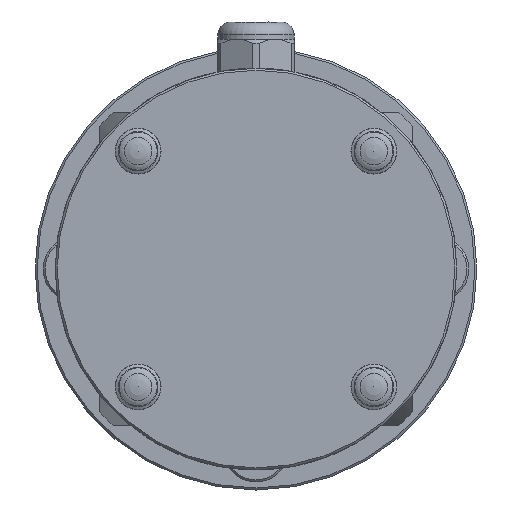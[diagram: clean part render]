
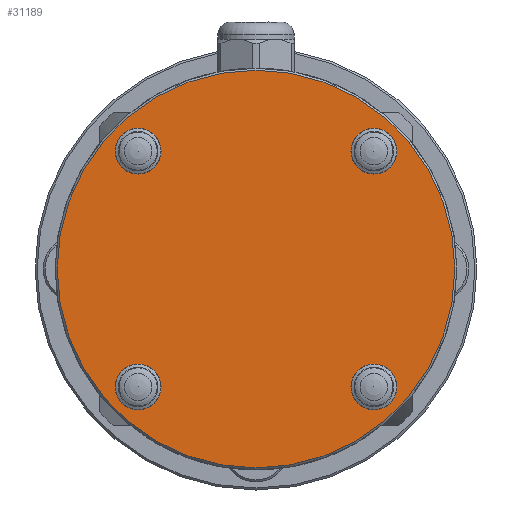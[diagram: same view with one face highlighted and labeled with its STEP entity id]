
A CAD part, left-side view. The second image highlights one B-rep face of the part: STEP entity #31189.
In plain terms, the highlighted planar face has unit normal (-1, 0, 0).
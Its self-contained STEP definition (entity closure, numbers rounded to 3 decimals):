
#7238=PLANE('',#34153);
#8492=FACE_BOUND('',#12350,.T.);
#8493=FACE_BOUND('',#12351,.T.);
#8494=FACE_BOUND('',#12352,.T.);
#8495=FACE_BOUND('',#12353,.T.);
#10005=FACE_OUTER_BOUND('',#12349,.T.);
#12349=EDGE_LOOP('',(#27665));
#12350=EDGE_LOOP('',(#27666));
#12351=EDGE_LOOP('',(#27667));
#12352=EDGE_LOOP('',(#27668));
#12353=EDGE_LOOP('',(#27669));
#13846=CIRCLE('',#34039,4.75);
#13849=CIRCLE('',#34045,4.75);
#13852=CIRCLE('',#34051,4.75);
#13855=CIRCLE('',#34057,4.75);
#13883=CIRCLE('',#34152,49.5);
#16451=VERTEX_POINT('',#52392);
#16454=VERTEX_POINT('',#52401);
#16457=VERTEX_POINT('',#52410);
#16460=VERTEX_POINT('',#52419);
#16531=VERTEX_POINT('',#52981);
#20248=EDGE_CURVE('',#16451,#16451,#13846,.T.);
#20251=EDGE_CURVE('',#16454,#16454,#13849,.T.);
#20254=EDGE_CURVE('',#16457,#16457,#13852,.T.);
#20257=EDGE_CURVE('',#16460,#16460,#13855,.T.);
#20373=EDGE_CURVE('',#16531,#16531,#13883,.T.);
#27665=ORIENTED_EDGE('',*,*,#20373,.F.);
#27666=ORIENTED_EDGE('',*,*,#20248,.T.);
#27667=ORIENTED_EDGE('',*,*,#20251,.T.);
#27668=ORIENTED_EDGE('',*,*,#20254,.T.);
#27669=ORIENTED_EDGE('',*,*,#20257,.T.);
#31189=ADVANCED_FACE('',(#10005,#8492,#8493,#8494,#8495),#7238,.F.);
#34039=AXIS2_PLACEMENT_3D('',#52393,#41715,#41716);
#34045=AXIS2_PLACEMENT_3D('',#52402,#41727,#41728);
#34051=AXIS2_PLACEMENT_3D('',#52411,#41739,#41740);
#34057=AXIS2_PLACEMENT_3D('',#52420,#41751,#41752);
#34152=AXIS2_PLACEMENT_3D('',#52982,#42001,#42002);
#34153=AXIS2_PLACEMENT_3D('',#52983,#42003,#42004);
#41715=DIRECTION('center_axis',(1.,0.,0.));
#41716=DIRECTION('ref_axis',(0.,0.707,0.707));
#41727=DIRECTION('center_axis',(1.,0.,0.));
#41728=DIRECTION('ref_axis',(0.,0.707,-0.707));
#41739=DIRECTION('center_axis',(1.,0.,0.));
#41740=DIRECTION('ref_axis',(0.,-0.707,-0.707));
#41751=DIRECTION('center_axis',(1.,0.,0.));
#41752=DIRECTION('ref_axis',(0.,-0.707,0.707));
#42001=DIRECTION('center_axis',(1.,0.,0.));
#42002=DIRECTION('ref_axis',(0.,0.,
-1.));
#42003=DIRECTION('center_axis',(1.,0.,0.));
#42004=DIRECTION('ref_axis',(0.,0.,-1.));
#52392=CARTESIAN_POINT('',(-59.,32.704,32.704));
#52393=CARTESIAN_POINT('Origin',(-59.,29.345,29.345));
#52401=CARTESIAN_POINT('',(-59.,32.704,-32.704));
#52402=CARTESIAN_POINT('Origin',(-59.,29.345,-29.345));
#52410=CARTESIAN_POINT('',(-59.,-32.704,-32.704));
#52411=CARTESIAN_POINT('Origin',(-59.,-29.345,-29.345));
#52419=CARTESIAN_POINT('',(-59.,-32.704,32.704));
#52420=CARTESIAN_POINT('Origin',(-59.,-29.345,29.345));
#52981=CARTESIAN_POINT('',(-59.,0.,49.5));
#52982=CARTESIAN_POINT('Origin',(-59.,0.,0.));
#52983=CARTESIAN_POINT('Origin',(-59.,0.,0.));
